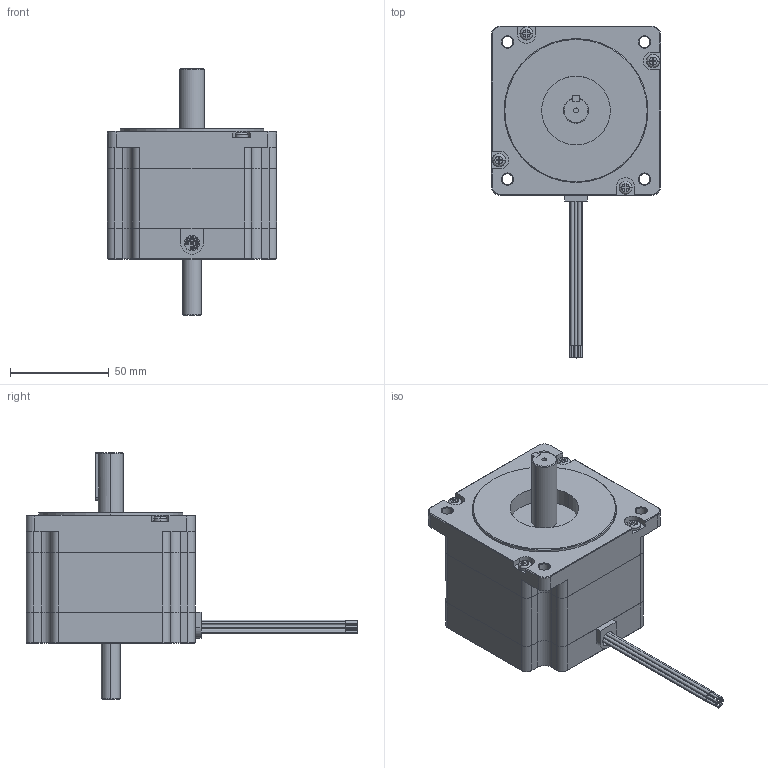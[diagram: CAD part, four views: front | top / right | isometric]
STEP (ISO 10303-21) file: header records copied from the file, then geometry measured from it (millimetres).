
FILE_DESCRIPTION (( 'STEP AP214' ), '1' );
FILE_NAME ('34Y008D-LW8.STEP', '2010-06-09T18:36:44', ( 'Tim Raines' ), ( 'Anaheim Automation' ), 'SwSTEP 2.0', 'SolidWorks 2010', '' );
FILE_SCHEMA (( 'AUTOMOTIVE_DESIGN' ));
Length unit declared in the file: inch
Products named in the file (1): 34Y008D-LW8
Bounding box: 85.85 x 168.4 x 125.22 mm (x, y, z)
Volume: 443571.5 mm3; surface area: 45033.8 mm2
Topology: 1 solids, 1 shells, 378 faces, 949 edges, 598 vertices
Faces by surface type: plane 178, cylinder 129, cone 63, torus 8
Entity records: 16151 total; most frequent: CARTESIAN_POINT 2207, DIRECTION 1965, ORIENTED_EDGE 1874, EDGE_CURVE 937, AXIS2_PLACEMENT_3D 710, VERTEX_POINT 598, LINE 545, VECTOR 545
